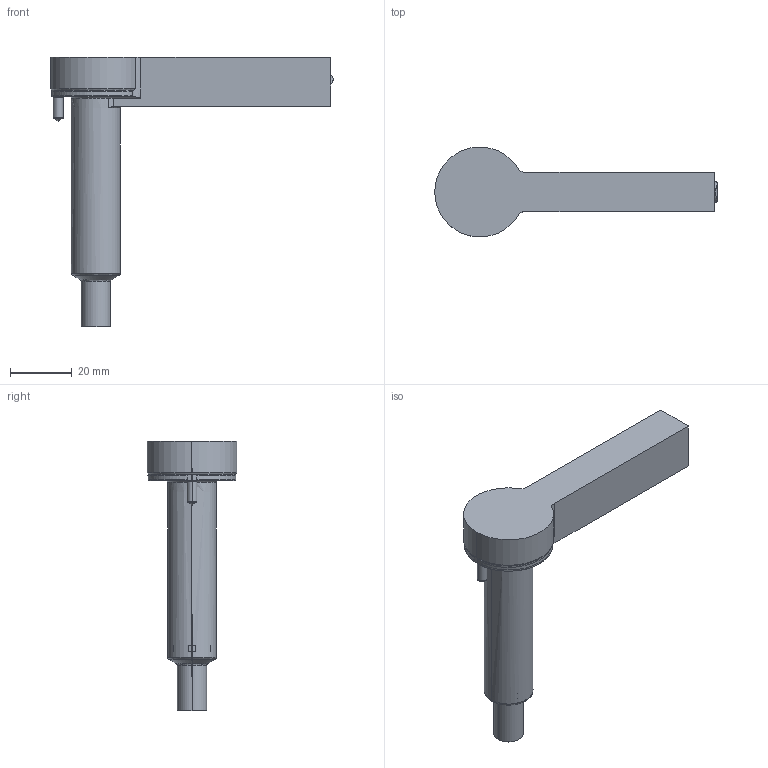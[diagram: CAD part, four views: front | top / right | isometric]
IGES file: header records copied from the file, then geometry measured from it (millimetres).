
Start section: SolidWorks IGES file using analytic representation for surfaces
Global section: file name: C:\Users\Ryan\Documents\PCS\Hot Sprue Bushings\PCS Mini Standard HSB\PCS Mini Standard HSB\FSB27\FSB27-1\FSB27-1-3BN-6XS-S.igs; native system: SolidWorks 2009; preprocessor: SolidWorks 2009; author: Ryan; date: 141104.173055; units: inch
Bounding box: 91.67 x 29.12 x 87.33 mm (x, y, z)
Surface area: 20699.9 mm2 (no closed solid volume)
Topology: 0 solids, 0 shells, 177 faces, 2224 edges, 2213 vertices
Faces by surface type: revolution 104, bspline 73
